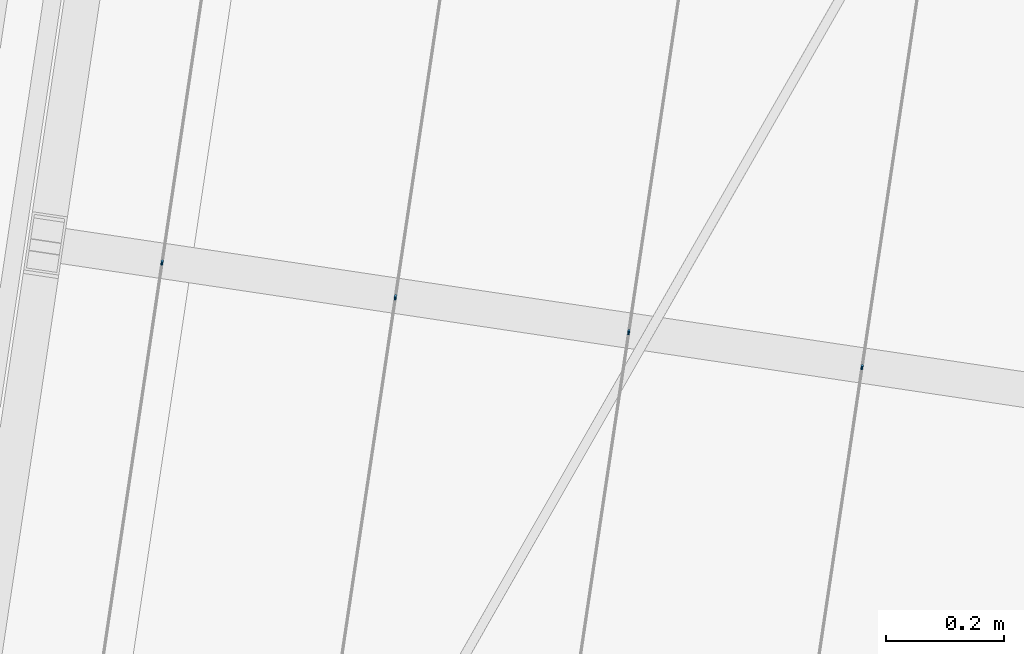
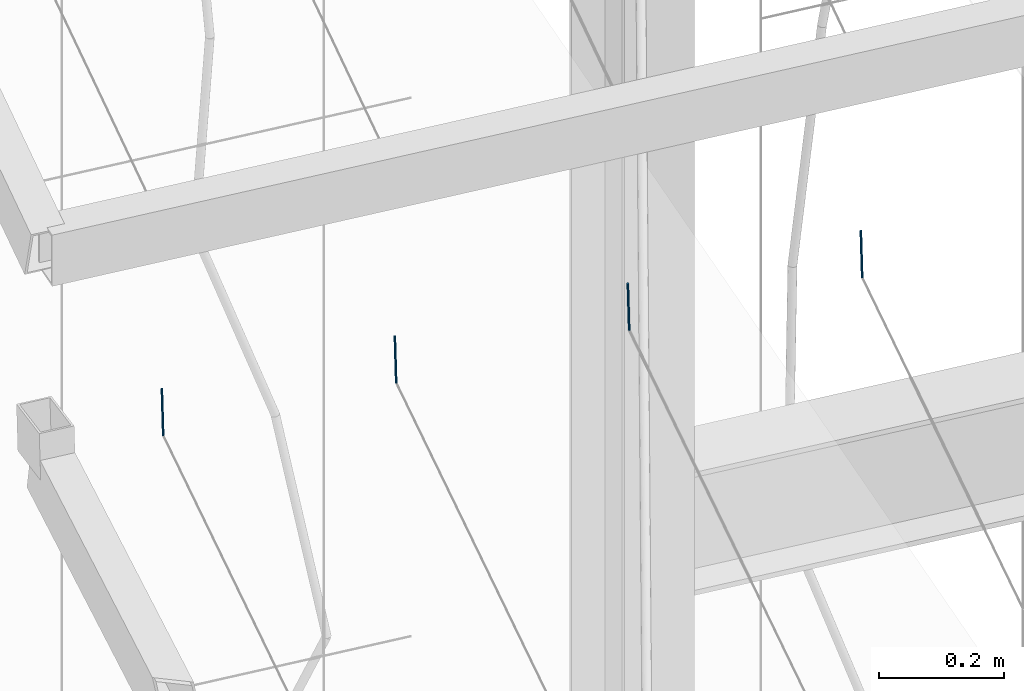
# One storey, part 124 of 142: 4 members, 1 element without a shape of its own.
"""IFC4 building model written with IfcOpenShell, lengths in metres."""

from ifc_helpers import new_model, si_unit, direction, frame, origin_with_axes, place, context, subcontext, project, spatial, circle, extrude, material, material_profile, profile_set, profile_usage, type_object, element, aggregate, save


model = new_model("IFC4")

# Units and contexts
model_context = context("Model", 3, precision=1e-05, world=origin_with_axes(), true_north=direction((0.0, 1.0)))
body_context = subcontext(model_context, "Body", "Model", "MODEL_VIEW")
ifc_project = project(units=[si_unit("VOLUMEUNIT", "CUBIC_METRE"), si_unit("LENGTHUNIT", "METRE"), si_unit("AREAUNIT", "SQUARE_METRE")], contexts=[model_context])

# Site, building, storey
site_placement = place(None, origin_with_axes())
site = spatial("IfcSite", under=ifc_project, at=site_placement, Name="Lares · Rua das Mercês · artigo 4771")
building_placement = place(site_placement, frame((12.0, 10.2, 13.9), z_axis=(0.0, 0.0, 1.0), x_axis=(0.989015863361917, -0.147809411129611, 0.0)))
building = spatial("IfcBuilding", under=site, at=building_placement, Name="Casa Sobreposta")
storey_placement = place(building_placement, origin_with_axes())
storey = spatial("IfcBuildingStorey", under=building, at=storey_placement, Name="00 · Habitação e estacionamento", Elevation=13.9)

# Assembly, members
assembly_placement = place(storey_placement, origin_with_axes())
assembly = element("IfcElementAssembly", 1, at=assembly_placement, inside=storey, Name="Pérgola · prolongamento da estufa 6 m", ObjectType="PERGOLA_GREENHOUSE_EXTENSION", PredefinedType="USERDEFINED")
ifc_material = material(Name="Aço galvanizado / Stahl verzinkt", Category="steel")
ifc_material_profile = material_profile(ifc_material, circle(Radius=0.002))
ifc_profile_set = profile_set([ifc_material_profile], Name="D0.004")
ifc_profile_usage_1 = profile_usage(ifc_profile_set)
member_type = type_object("IfcMemberType", Name="D0.004 / galvanized", PredefinedType="NOTDEFINED", material=ifc_profile_set)
member_1_placement = place(assembly_placement, frame((-5.8, 1.21440957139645, 7.21329402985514), z_axis=(0.0, 0.0686229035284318, 0.997642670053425), x_axis=(1.0, 0.0, 0.0)))
member_1 = element("IfcMember", 2, at=member_1_placement, type_object=member_type, material=ifc_profile_usage_1, Name="Pérgola · fio para trepadeiras", context=body_context, shape_type="SweptSolid", body=[
    extrude(circle(Radius=0.002), origin_with_axes(), (0.0, 0.0, 1.0), 0.0875893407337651),
])
ifc_profile_usage_2 = profile_usage(ifc_profile_set)
member_2_placement = place(assembly_placement, frame((-5.4, 1.21440957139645, 7.21329402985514), z_axis=(0.0, 0.0686229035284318, 0.997642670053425), x_axis=(1.0, 0.0, 0.0)))
member_2 = element("IfcMember", 3, at=member_2_placement, type_object=member_type, material=ifc_profile_usage_2, Name="Pérgola · fio para trepadeiras", context=body_context, shape_type="SweptSolid", body=[
    extrude(circle(Radius=0.002), origin_with_axes(), (0.0, 0.0, 1.0), 0.0875893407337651),
])
ifc_profile_usage_3 = profile_usage(ifc_profile_set)
member_3_placement = place(assembly_placement, frame((-5.0, 1.21440957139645, 7.21329402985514), z_axis=(0.0, 0.0686229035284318, 0.997642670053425), x_axis=(1.0, 0.0, 0.0)))
member_3 = element("IfcMember", 4, at=member_3_placement, type_object=member_type, material=ifc_profile_usage_3, Name="Pérgola · fio para trepadeiras", context=body_context, shape_type="SweptSolid", body=[
    extrude(circle(Radius=0.002), origin_with_axes(), (0.0, 0.0, 1.0), 0.0875893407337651),
])
ifc_profile_usage_4 = profile_usage(ifc_profile_set)
member_4_placement = place(assembly_placement, frame((-4.6, 1.21440957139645, 7.21329402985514), z_axis=(0.0, 0.0686229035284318, 0.997642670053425), x_axis=(1.0, 0.0, 0.0)))
member_4 = element("IfcMember", 5, at=member_4_placement, type_object=member_type, material=ifc_profile_usage_4, Name="Pérgola · fio para trepadeiras", context=body_context, shape_type="SweptSolid", body=[
    extrude(circle(Radius=0.002), origin_with_axes(), (0.0, 0.0, 1.0), 0.0875893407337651),
])
aggregate(assembly, [member_1, member_2, member_3, member_4])

save(model, "model.ifc")
